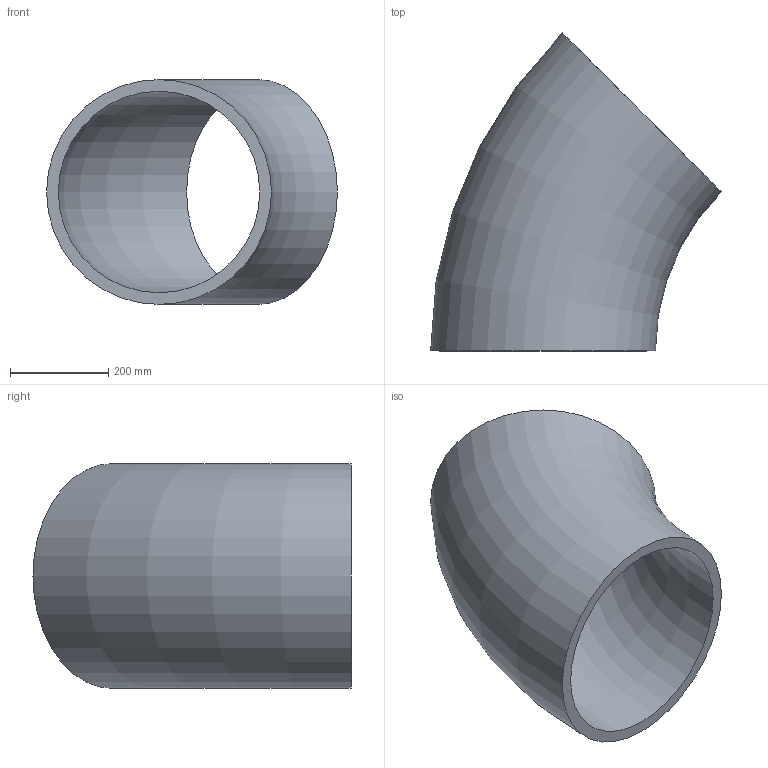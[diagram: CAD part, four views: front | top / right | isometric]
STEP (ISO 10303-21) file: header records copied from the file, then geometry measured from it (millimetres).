
FILE_DESCRIPTION(/* description */ (''),/* implementation_level */ '2;1');
FILE_NAME(/* name */ 'C:\Users\D\Documents\Inventor\HP\JIS\配管\エルボ ロング 45°\Sch80\Elbow45-long-450A-Sch80.stp',/* time_stamp */ '2022-06-08T17:03:18+09:00',/* author */ ('D'),/* organization */ (''),/* preprocessor_version */ 'ST-DEVELOPER v18',/* originating_system */ 'Autodesk Inventor 2020',/* authorisation */ '');
FILE_SCHEMA (('AUTOMOTIVE_DESIGN { 1 0 10303 214 3 1 1 }'));
Length unit declared in the file: millimetre
Products named in the file (1): Elbow-long-90-15A-SGP
Bounding box: 591.11 x 646.58 x 457.2 mm (x, y, z)
Volume: 17454326.6 mm3; surface area: 1531560.7 mm2
Topology: 1 solids, 1 shells, 4 faces, 10 edges, 8 vertices
Faces by surface type: torus 2, plane 2
Entity records: 181 total; most frequent: DIRECTION 30, CARTESIAN_POINT 23, ORIENTED_EDGE 20, AXIS2_PLACEMENT_3D 15, CIRCLE 10, EDGE_CURVE 10, VERTEX_POINT 8, EDGE_LOOP 6
